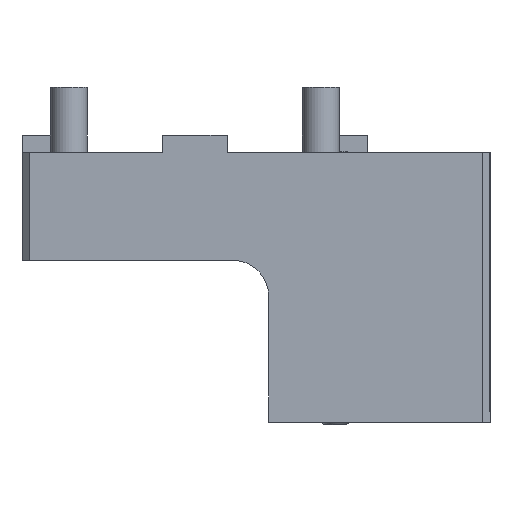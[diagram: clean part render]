
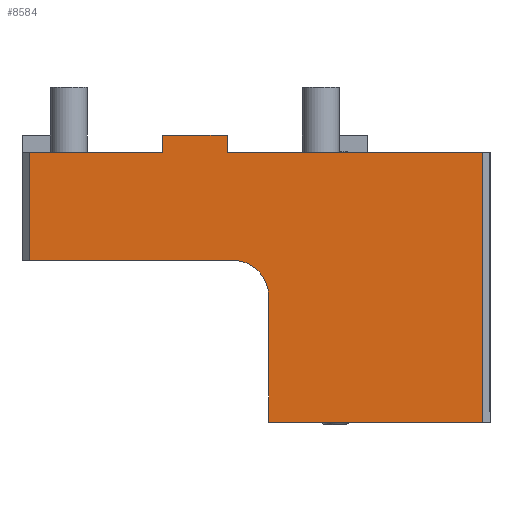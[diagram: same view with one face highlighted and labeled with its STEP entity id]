
A CAD part, front view. The second image highlights one B-rep face of the part: STEP entity #8584.
In plain terms, the highlighted planar face has unit normal (0, -1, 0).
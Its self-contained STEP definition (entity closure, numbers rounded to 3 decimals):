
#3910=CIRCLE('',#8181,10.);
#4209=ORIENTED_EDGE('',*,*,#5687,.T.);
#4210=ORIENTED_EDGE('',*,*,#5689,.F.);
#4211=ORIENTED_EDGE('',*,*,#5690,.F.);
#4212=ORIENTED_EDGE('',*,*,#5692,.T.);
#4213=ORIENTED_EDGE('',*,*,#5693,.F.);
#4214=ORIENTED_EDGE('',*,*,#5694,.F.);
#4215=ORIENTED_EDGE('',*,*,#5695,.T.);
#4216=ORIENTED_EDGE('',*,*,#5696,.F.);
#4217=ORIENTED_EDGE('',*,*,#5583,.T.);
#4218=ORIENTED_EDGE('',*,*,#5594,.T.);
#4219=ORIENTED_EDGE('',*,*,#5601,.T.);
#4768=VECTOR('',#6497,1.);
#4775=VECTOR('',#6514,1.);
#4781=VECTOR('',#6524,1.);
#4845=VECTOR('',#6670,1.);
#4847=VECTOR('',#6674,1.);
#4848=VECTOR('',#6677,1.);
#4850=VECTOR('',#6681,1.);
#4851=VECTOR('',#6682,1.);
#4852=VECTOR('',#6683,1.);
#4853=VECTOR('',#6686,1.);
#5039=LINE('',#7367,#4768);
#5046=LINE('',#7388,#4775);
#5052=LINE('',#7403,#4781);
#5116=LINE('',#7569,#4845);
#5118=LINE('',#7573,#4847);
#5119=LINE('',#7576,#4848);
#5121=LINE('',#7580,#4850);
#5122=LINE('',#7582,#4851);
#5123=LINE('',#7584,#4852);
#5124=LINE('',#7587,#4853);
#5310=VERTEX_POINT('',#7364);
#5311=VERTEX_POINT('',#7366);
#5320=VERTEX_POINT('',#7386);
#5327=VERTEX_POINT('',#7401);
#5388=VERTEX_POINT('',#7567);
#5389=VERTEX_POINT('',#7571);
#5390=VERTEX_POINT('',#7575);
#5391=VERTEX_POINT('',#7579);
#5392=VERTEX_POINT('',#7581);
#5393=VERTEX_POINT('',#7583);
#5394=VERTEX_POINT('',#7585);
#5583=EDGE_CURVE('',#5311,#5310,#5039,.T.);
#5594=EDGE_CURVE('',#5310,#5320,#5046,.T.);
#5601=EDGE_CURVE('',#5320,#5327,#5052,.T.);
#5687=EDGE_CURVE('',#5327,#5388,#5116,.T.);
#5689=EDGE_CURVE('',#5389,#5388,#5118,.T.);
#5690=EDGE_CURVE('',#5390,#5389,#5119,.T.);
#5692=EDGE_CURVE('',#5390,#5391,#5121,.T.);
#5693=EDGE_CURVE('',#5392,#5391,#5122,.T.);
#5694=EDGE_CURVE('',#5393,#5392,#5123,.T.);
#5695=EDGE_CURVE('',#5393,#5394,#3910,.T.);
#5696=EDGE_CURVE('',#5311,#5394,#5124,.T.);
#5974=EDGE_LOOP('',(#4209,#4210,#4211,#4212,#4213,#4214,#4215,#4216,#4217,
#4218,#4219));
#6219=FACE_BOUND('',#5974,.T.);
#6497=DIRECTION('',(59.5,0.,0.));
#6514=DIRECTION('',(0.,0.,75.));
#6524=DIRECTION('',(-71.,0.,0.));
#6670=DIRECTION('',(0.,0.,4.75));
#6674=DIRECTION('',(18.,0.,0.));
#6677=DIRECTION('',(0.,0.,4.75));
#6679=DIRECTION('',(0.,-1.,0.));
#6680=DIRECTION('',(-1.,0.,0.));
#6681=DIRECTION('',(-37.,0.,0.));
#6682=DIRECTION('',(0.,0.,30.));
#6683=DIRECTION('',(-56.5,0.,0.));
#6684=DIRECTION('',(0.,1.,0.));
#6685=DIRECTION('',(0.,0.,-10.));
#6686=DIRECTION('',(0.,0.,35.));
#7364=CARTESIAN_POINT('',(80.,-48.,-64.));
#7366=CARTESIAN_POINT('',(20.5,-48.,-64.));
#7367=CARTESIAN_POINT('',(20.5,-48.,-64.));
#7386=CARTESIAN_POINT('',(80.,-48.,11.));
#7388=CARTESIAN_POINT('',(80.,-48.,-64.));
#7401=CARTESIAN_POINT('',(9.,-48.,11.));
#7403=CARTESIAN_POINT('',(80.,-48.,11.));
#7567=CARTESIAN_POINT('',(9.,-48.,15.75));
#7569=CARTESIAN_POINT('',(9.,-48.,11.));
#7571=CARTESIAN_POINT('',(-9.,-48.,15.75));
#7573=CARTESIAN_POINT('',(-9.,-48.,15.75));
#7575=CARTESIAN_POINT('',(-9.,-48.,11.));
#7576=CARTESIAN_POINT('',(-9.,-48.,11.));
#7578=CARTESIAN_POINT('',(9.,-48.,6.));
#7579=CARTESIAN_POINT('',(-46.,-48.,11.));
#7580=CARTESIAN_POINT('',(-9.,-48.,11.));
#7581=CARTESIAN_POINT('',(-46.,-48.,-19.));
#7582=CARTESIAN_POINT('',(-46.,-48.,-19.));
#7583=CARTESIAN_POINT('',(10.5,-48.,-19.));
#7584=CARTESIAN_POINT('',(10.5,-48.,-19.));
#7585=CARTESIAN_POINT('',(20.5,-48.,-29.));
#7586=CARTESIAN_POINT('',(10.5,-48.,-29.));
#7587=CARTESIAN_POINT('',(20.5,-48.,-64.));
#8180=AXIS2_PLACEMENT_3D('',#7578,#6679,#6680);
#8181=AXIS2_PLACEMENT_3D('',#7586,#6684,#6685);
#8434=PLANE('',#8180);
#8584=ADVANCED_FACE('',(#6219),#8434,.T.);
